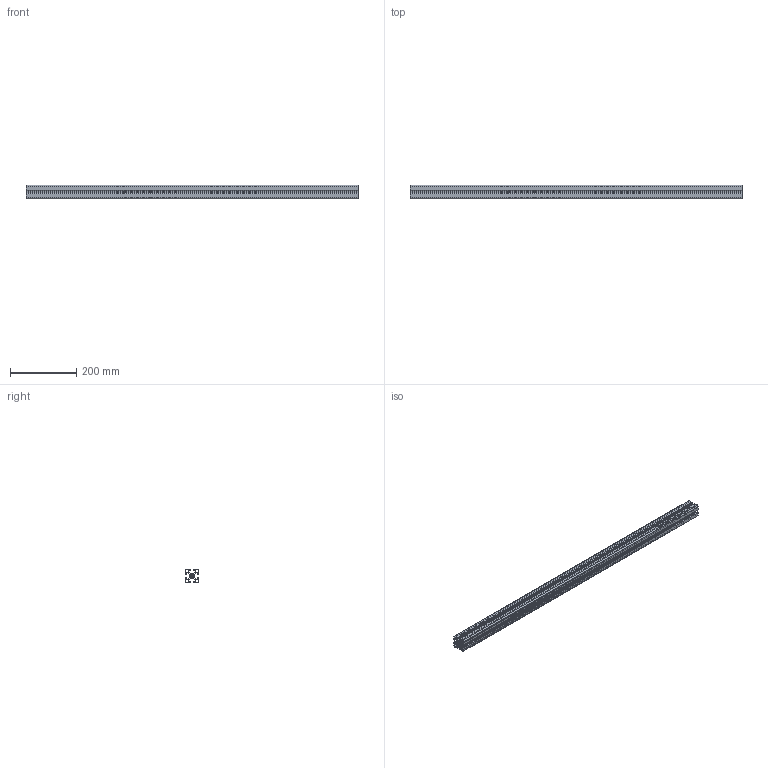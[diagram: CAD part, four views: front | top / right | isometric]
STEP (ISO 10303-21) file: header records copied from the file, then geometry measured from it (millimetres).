
FILE_DESCRIPTION (( 'STEP AP203' ), '1' );
FILE_NAME ('10396_PRO_40x40_E.STEP', '2016-03-01T10:08:40', ( '' ), ( '' ), 'SwSTEP 2.0', 'SolidWorks 2015', '' );
FILE_SCHEMA (( 'CONFIG_CONTROL_DESIGN' ));
Length unit declared in the file: millimetre
Products named in the file (1): 10396_PRO_40x40_E
Bounding box: 1000 x 40 x 40 mm (x, y, z)
Volume: 512492.4 mm3; surface area: 582038.1 mm2
Topology: 1 solids, 1 shells, 268 faces, 798 edges, 532 vertices
Faces by surface type: plane 150, cylinder 118
Entity records: 9151 total; most frequent: CARTESIAN_POINT 1599, ORIENTED_EDGE 1596, DIRECTION 1572, EDGE_CURVE 798, LINE 562, VECTOR 562, VERTEX_POINT 532, AXIS2_PLACEMENT_3D 505
